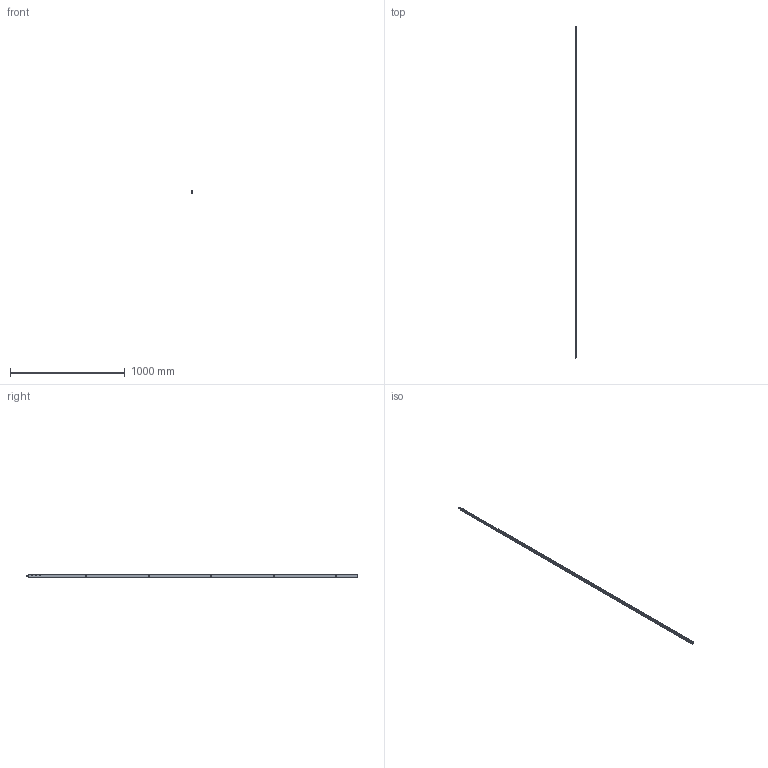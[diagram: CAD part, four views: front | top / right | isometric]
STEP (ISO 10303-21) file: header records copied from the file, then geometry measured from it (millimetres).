
FILE_DESCRIPTION (( 'STEP AP214' ), '1' );
FILE_NAME ('TPL-W-531-L 19July2024.STEP', '2024-12-05T00:23:26', ( '' ), ( '' ), 'SwSTEP 2.0', 'SolidWorks 2023', '' );
FILE_SCHEMA (( 'AUTOMOTIVE_DESIGN' ));
Length unit declared in the file: millimetre
Products named in the file (15): Copy of Adapter DnF - simplfied^TPL-W-001 19July2024_26mm backset; Copy of TPLGen2 lock body non-keyed^Copy of TPLGen2 lock body non-keyed assembly_TPL-W-001 19July2024; Copy of TPLGen2 push rod - simplified^Copy of TPLGen2 lock body non-keyed assembly_TPL-W-001 19July2024_Female thread M10; COV-112-A Cover A suit TPLGen2 standard range^TPL-W-001 19July2024_2870mm; COV-112-B Cover B suit TPLGen2 standard range^TPL-W-001 19July2024_2870mm; Bolt.step; Copy of COV-112-C Cover C TPLGen2 Lock body^TPL-W-001 19July2024; Copy of Escutcheon plate unkeyed 185mm - simplified^Copy of TPGen2 handle non-keyed - simplified_TPL-W-001 19July2024; Copy of Handle sub-assembly - simplified^Copy of TPGen2 handle non-keyed - simplified_TPL-W-001 19July2024; TPL-W-531-L 19July2024; Bottom twinpoint transmission rod wood system^TPL-W-001 19July2024_Standard Range 2891.7mm; Copy of Adapter CnE - simplfied^TPL-W-001 19July2024_26mm backset; Copy of LKC-531-A Rod TPLGen2 machined bolt end^TPL-W-001 19July2024_LKC-531-A-M003; Copy of LKC-547 Spindle - simplified^Copy of TPGen2 handle non-keyed - simplified_TPL-W-001 19July2024_C - 15mm
Assembly tree (3 placements, depth 2):
  Copy of Adapter DnF - simplfied^TPL-W-001 19July2024_26mm backset
  Copy of TPLGen2 lock body non-keyed^Copy of TPLGen2 lock body non-keyed assembly_TPL-W-001 19July2024
  Copy of TPLGen2 push rod - simplified^Copy of TPLGen2 lock body non-keyed assembly_TPL-W-001 19July2024_Female thread M10
  COV-112-B Cover B suit TPLGen2 standard range^TPL-W-001 19July2024_2870mm
  Bolt.step
Bounding box: 10.8 x 2895 x 27 mm (x, y, z)
Volume: 470488.1 mm3; surface area: 386906.2 mm2
Topology: 3 solids, 3 shells, 158 faces, 490 edges, 324 vertices
Faces by surface type: plane 73, cylinder 61, cone 22, sphere 2
Entity records: 6265 total; most frequent: CARTESIAN_POINT 1664, ORIENTED_EDGE 974, DIRECTION 883, EDGE_CURVE 487, VERTEX_POINT 323, AXIS2_PLACEMENT_3D 318, LINE 247, VECTOR 247
